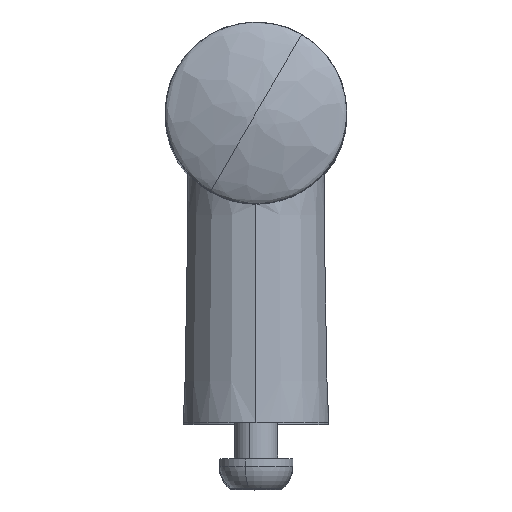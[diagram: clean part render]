
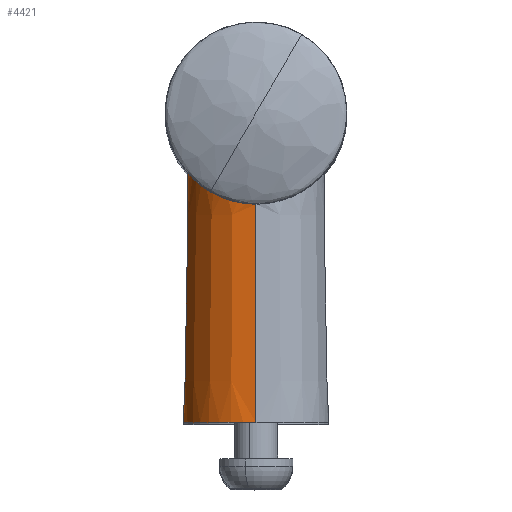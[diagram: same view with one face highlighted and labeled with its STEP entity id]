
A CAD part, top view. The second image highlights one B-rep face of the part: STEP entity #4421.
In plain terms, the highlighted conical face has half-angle 1 degrees and reference radius 10 mm.
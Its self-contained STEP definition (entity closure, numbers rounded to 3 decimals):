
#49 = CARTESIAN_POINT ( 'NONE',  ( -9.147, 33.98, 2.217 ) ) ;
#82 = CARTESIAN_POINT ( 'NONE',  ( -8.136, 33.008, 4.766 ) ) ;
#84 = VERTEX_POINT ( 'NONE', #3315 ) ;
#100 = CARTESIAN_POINT ( 'NONE',  ( -6.268, 31.674, -7.093 ) ) ;
#102 = DIRECTION ( 'NONE',  ( 0., 0., 1. ) ) ;
#114 = LINE ( 'NONE', #1188, #2617 ) ;
#351 = CARTESIAN_POINT ( 'NONE',  ( 0., 30., 9.476 ) ) ;
#419 = CARTESIAN_POINT ( 'NONE',  ( 0., 0., -10. ) ) ;
#458 = CARTESIAN_POINT ( 'NONE',  ( -4.278, 30.751, -8.447 ) ) ;
#476 = CARTESIAN_POINT ( 'NONE',  ( -8.408, 33.248, -4.257 ) ) ;
#495 = CARTESIAN_POINT ( 'NONE',  ( -7.969, 32.867, -5.044 ) ) ;
#527 = EDGE_CURVE ( 'NONE', #84, #797, #114, .T. ) ;
#771 = CARTESIAN_POINT ( 'NONE',  ( -1.286, 30.062, 9.393 ) ) ;
#797 = VERTEX_POINT ( 'NONE', #2303 ) ;
#881 = CARTESIAN_POINT ( 'NONE',  ( -1.283, 30.05, -9.41 ) ) ;
#915 = CARTESIAN_POINT ( 'NONE',  ( -7.091, 32.203, -6.236 ) ) ;
#929 = B_SPLINE_CURVE_WITH_KNOTS ( 'NONE', 3,
 ( #351, #4633, #3303, #771, #3721, #4592, #1200, #4160, #2045, #5011, #2622, #2176, #4284, #4311, #4333, #5092, #82, #3433, #1364, #5134, #3471, #1351, #49, #5115, #2195, #2604, #1335, #4692, #3450, #3831, #933, #2588, #4741, #2570, #476, #2973, #495, #2988, #1799, #915, #1320, #100, #5149, #2159, #3041, #458, #3870, #1783, #3022, #881, #1747, #1764 ),
 .UNSPECIFIED., .F., .F.,
 ( 4, 2, 2, 2, 2, 2, 2, 2, 2, 2, 2, 2, 2, 2, 2, 2, 2, 2, 2, 2, 2, 2, 2, 2, 2, 4 ),
 ( 0.039, 0.04, 0.041, 0.043, 0.044, 0.045, 0.047, 0.049, 0.049, 0.05, 0.051, 0.052, 0.053, 0.054, 0.056, 0.057, 0.058, 0.059, 0.06, 0.061, 0.062, 0.064, 0.065, 0.066, 0.068, 0.07 ),
 .UNSPECIFIED. ) ;
#933 = CARTESIAN_POINT ( 'NONE',  ( -9.062, 33.889, -2.55 ) ) ;
#1012 = ORIENTED_EDGE ( 'NONE', *, *, #1554, .T. ) ;
#1058 = VERTEX_POINT ( 'NONE', #3473 ) ;
#1087 = AXIS2_PLACEMENT_3D ( 'NONE', #3358, #1276, #2916 ) ;
#1151 = EDGE_CURVE ( 'NONE', #1503, #797, #4998, .T. ) ;
#1188 = CARTESIAN_POINT ( 'NONE',  ( 0., 0., 10. ) ) ;
#1200 = CARTESIAN_POINT ( 'NONE',  ( -3.154, 30.39, 8.951 ) ) ;
#1276 = DIRECTION ( 'NONE',  ( 0., -1., 0. ) ) ;
#1320 = CARTESIAN_POINT ( 'NONE',  ( -6.892, 32.069, -6.458 ) ) ;
#1335 = CARTESIAN_POINT ( 'NONE',  ( -9.402, 34.263, 0.313 ) ) ;
#1351 = CARTESIAN_POINT ( 'NONE',  ( -9.068, 33.896, 2.526 ) ) ;
#1364 = CARTESIAN_POINT ( 'NONE',  ( -8.547, 33.378, 3.965 ) ) ;
#1415 = LINE ( 'NONE', #2098, #3398 ) ;
#1503 = VERTEX_POINT ( 'NONE', #419 ) ;
#1554 = EDGE_CURVE ( 'NONE', #1058, #1503, #1415, .T. ) ;
#1747 = CARTESIAN_POINT ( 'NONE',  ( -0.643, 30., -9.476 ) ) ;
#1764 = CARTESIAN_POINT ( 'NONE',  ( 0., 30., -9.476 ) ) ;
#1783 = CARTESIAN_POINT ( 'NONE',  ( -3.145, 30.387, -8.954 ) ) ;
#1799 = CARTESIAN_POINT ( 'NONE',  ( -7.464, 32.47, -5.776 ) ) ;
#2045 = CARTESIAN_POINT ( 'NONE',  ( -4.295, 30.757, 8.438 ) ) ;
#2050 = ORIENTED_EDGE ( 'NONE', *, *, #4429, .T. ) ;
#2098 = CARTESIAN_POINT ( 'NONE',  ( 0., 0., -10. ) ) ;
#2126 = FACE_OUTER_BOUND ( 'NONE', #2691, .T. ) ;
#2159 = CARTESIAN_POINT ( 'NONE',  ( -5.074, 31.073, -7.987 ) ) ;
#2176 = CARTESIAN_POINT ( 'NONE',  ( -5.833, 31.431, 7.462 ) ) ;
#2195 = CARTESIAN_POINT ( 'NONE',  ( -9.322, 34.172, 1.279 ) ) ;
#2303 = CARTESIAN_POINT ( 'NONE',  ( 0., 0., 10. ) ) ;
#2526 = ORIENTED_EDGE ( 'NONE', *, *, #1151, .T. ) ;
#2570 = CARTESIAN_POINT ( 'NONE',  ( -8.538, 33.369, -3.986 ) ) ;
#2588 = CARTESIAN_POINT ( 'NONE',  ( -8.878, 33.699, -3.141 ) ) ;
#2604 = CARTESIAN_POINT ( 'NONE',  ( -9.386, 34.244, 0.639 ) ) ;
#2617 = VECTOR ( 'NONE', #3293, 1000. ) ;
#2622 = CARTESIAN_POINT ( 'NONE',  ( -5.089, 31.079, 7.978 ) ) ;
#2691 = EDGE_LOOP ( 'NONE', ( #2050, #1012, #2526, #4802 ) ) ;
#2916 = DIRECTION ( 'NONE',  ( 0., 0., 1. ) ) ;
#2951 = DIRECTION ( 'NONE',  ( 0., -1., -0.017 ) ) ;
#2973 = CARTESIAN_POINT ( 'NONE',  ( -8.124, 32.998, -4.786 ) ) ;
#2988 = CARTESIAN_POINT ( 'NONE',  ( -7.64, 32.604, -5.538 ) ) ;
#3022 = CARTESIAN_POINT ( 'NONE',  ( -2.546, 30.245, -9.146 ) ) ;
#3026 = CARTESIAN_POINT ( 'NONE',  ( 0., 0., 0. ) ) ;
#3041 = CARTESIAN_POINT ( 'NONE',  ( -4.816, 30.961, -8.148 ) ) ;
#3293 = DIRECTION ( 'NONE',  ( 0., -1., 0.017 ) ) ;
#3303 = CARTESIAN_POINT ( 'NONE',  ( -0.644, 30.012, 9.46 ) ) ;
#3315 = CARTESIAN_POINT ( 'NONE',  ( 0., 30., 9.476 ) ) ;
#3322 = CONICAL_SURFACE ( 'NONE', #1087, 10., 0.017 ) ;
#3358 = CARTESIAN_POINT ( 'NONE',  ( 0., 0., 0. ) ) ;
#3398 = VECTOR ( 'NONE', #2951, 1000. ) ;
#3433 = CARTESIAN_POINT ( 'NONE',  ( -8.418, 33.258, 4.236 ) ) ;
#3450 = CARTESIAN_POINT ( 'NONE',  ( -9.334, 34.183, -1.307 ) ) ;
#3471 = CARTESIAN_POINT ( 'NONE',  ( -8.885, 33.707, 3.119 ) ) ;
#3473 = CARTESIAN_POINT ( 'NONE',  ( 0., 30., -9.476 ) ) ;
#3721 = CARTESIAN_POINT ( 'NONE',  ( -1.608, 30.1, 9.343 ) ) ;
#3831 = CARTESIAN_POINT ( 'NONE',  ( -9.141, 33.974, -2.243 ) ) ;
#3870 = CARTESIAN_POINT ( 'NONE',  ( -3.999, 30.653, -8.584 ) ) ;
#4160 = CARTESIAN_POINT ( 'NONE',  ( -4.015, 30.658, 8.577 ) ) ;
#4284 = CARTESIAN_POINT ( 'NONE',  ( -6.293, 31.689, 7.07 ) ) ;
#4311 = CARTESIAN_POINT ( 'NONE',  ( -7.12, 32.215, 6.223 ) ) ;
#4333 = CARTESIAN_POINT ( 'NONE',  ( -7.49, 32.483, 5.765 ) ) ;
#4421 = ADVANCED_FACE ( 'NONE', ( #2126 ), #3322, .T. ) ;
#4429 = EDGE_CURVE ( 'NONE', #84, #1058, #929, .T. ) ;
#4592 = CARTESIAN_POINT ( 'NONE',  ( -2.554, 30.247, 9.144 ) ) ;
#4633 = CARTESIAN_POINT ( 'NONE',  ( -0.323, 30., 9.476 ) ) ;
#4692 = CARTESIAN_POINT ( 'NONE',  ( -9.401, 34.262, -0.669 ) ) ;
#4723 = DIRECTION ( 'NONE',  ( 0., 1., 0. ) ) ;
#4741 = CARTESIAN_POINT ( 'NONE',  ( -8.773, 33.594, -3.428 ) ) ;
#4802 = ORIENTED_EDGE ( 'NONE', *, *, #527, .F. ) ;
#4998 = CIRCLE ( 'NONE', #5405, 10. ) ;
#5011 = CARTESIAN_POINT ( 'NONE',  ( -4.831, 30.968, 8.139 ) ) ;
#5092 = CARTESIAN_POINT ( 'NONE',  ( -7.981, 32.878, 5.024 ) ) ;
#5115 = CARTESIAN_POINT ( 'NONE',  ( -9.274, 34.118, 1.594 ) ) ;
#5134 = CARTESIAN_POINT ( 'NONE',  ( -8.781, 33.602, 3.406 ) ) ;
#5149 = CARTESIAN_POINT ( 'NONE',  ( -5.815, 31.421, -7.475 ) ) ;
#5405 = AXIS2_PLACEMENT_3D ( 'NONE', #3026, #4723, #102 ) ;
